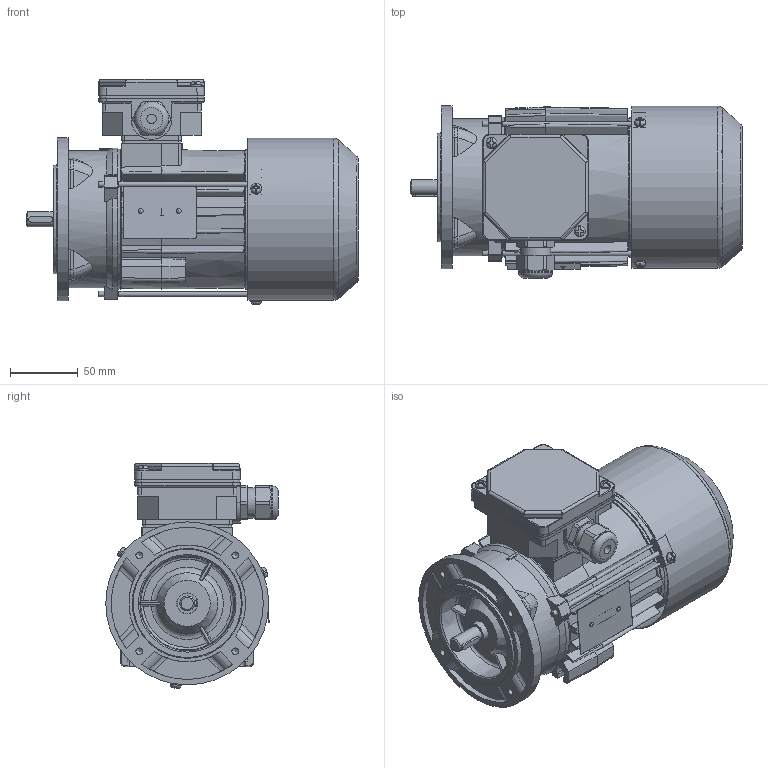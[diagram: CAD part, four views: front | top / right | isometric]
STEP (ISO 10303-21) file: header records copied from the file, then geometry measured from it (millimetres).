
FILE_DESCRIPTION(/* description */ ('Unknown'),/* implementation_level */ '2;1');
FILE_NAME(/* name */ '3SIEK63-6B1',/* time_stamp */ '2021-02-01T14:39:03+01:00',/* author */ ('Unknown'),/* organization */ ('Unknown'),/* preprocessor_version */ 'ST-DEVELOPER v16.7',/* originating_system */ 'Solid Edge',/* authorisation */ 'Unknown');
FILE_SCHEMA (('AUTOMOTIVE_DESIGN {1 0 10303 214 3 1 1}'));
Length unit declared in the file: millimetre
Products named in the file (1): 3SIEK63-6B1
Bounding box: 244.47 x 127 x 165.7 mm (x, y, z)
Volume: 566393.3 mm3; surface area: 349223.9 mm2
Topology: 1 solids, 1 shells, 1809 faces, 5164 edges, 3370 vertices
Faces by surface type: plane 904, cylinder 528, torus 129, cone 114, bspline 113, sphere 21
Full cylindrical faces by diameter (mm): 2 x1, 2.4 x2, 3.7 x7, 3.8 x1, 4 x8, 4.5 x3, 4.8 x2, 5 x6, 7 x4, 8 x6, 10.998 x1, 12.897 x1, 13.097 x1, 14.997 x2, 15.4 x2, 18.996 x2, 19.496 x1, 19.996 x1, 20.096 x1, 21.516 x4, 22.3 x1, 25 x1, 28 x2, 28.48 x4, 31 x2, 35 x3, 71.986 x1, 80 x1, 96 x1, 99 x2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
Entity records: 74418 total; most frequent: CARTESIAN_POINT 16800, ORIENTED_EDGE 9680, DIRECTION 8826, EDGE_CURVE 4840, AXIS2_PLACEMENT_3D 3255, VERTEX_POINT 3249, LINE 2316, VECTOR 2316
